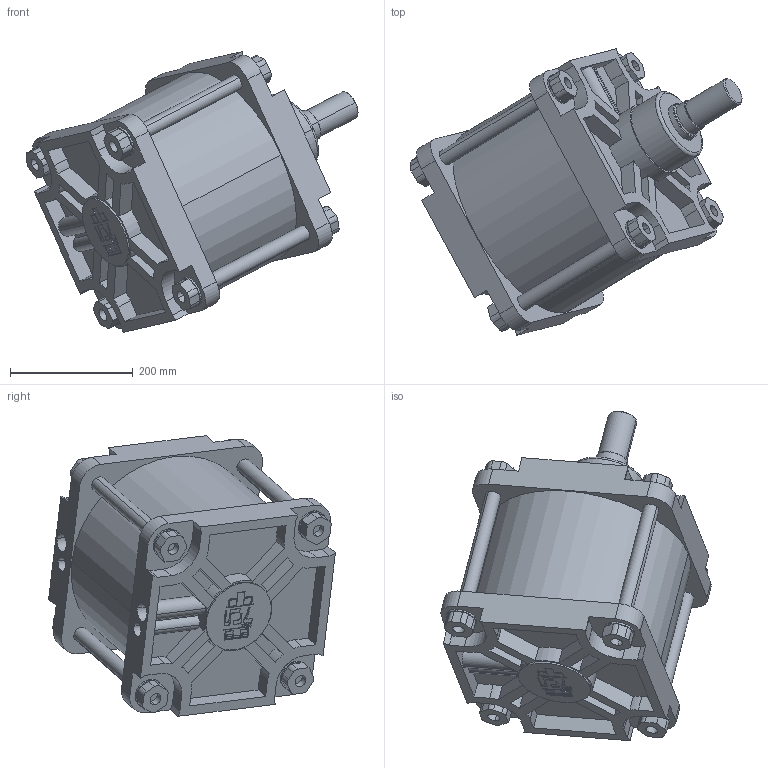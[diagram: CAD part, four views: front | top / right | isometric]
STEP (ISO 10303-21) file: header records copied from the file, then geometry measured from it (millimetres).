
FILE_DESCRIPTION(('CATIA V5 STEP Exchange'),'2;1');
FILE_NAME('D:\stp file for catalog\PNC\320\PNC 320-63-100.stp','2015-10-27T14:00:05+00:00',('none'),('none'),'Version 5-6 Release 2012','CATIA V5 STEP AP203','none');
FILE_SCHEMA(('CONFIG_CONTROL_DESIGN'));
Length unit declared in the file: millimetre
Products named in the file (1): PNC 320-63-100-00
Assembly tree (2 placements, depth 2):
  PNC 320-63-100-00
    #58
    #14831
Bounding box: 540.26 x 466.68 x 456.84 mm (x, y, z)
Volume: 15843864 mm3; surface area: 1467864.3 mm2
Topology: 2 solids, 4 shells, 522 faces, 1393 edges, 921 vertices
Faces by surface type: plane 305, cylinder 169, cone 42, torus 6
Entity records: 15447 total; most frequent: CARTESIAN_POINT 3485, ORIENTED_EDGE 2786, DIRECTION 1853, EDGE_CURVE 1393, VERTEX_POINT 921, VECTOR 878, LINE 878, AXIS2_PLACEMENT_3D 682
